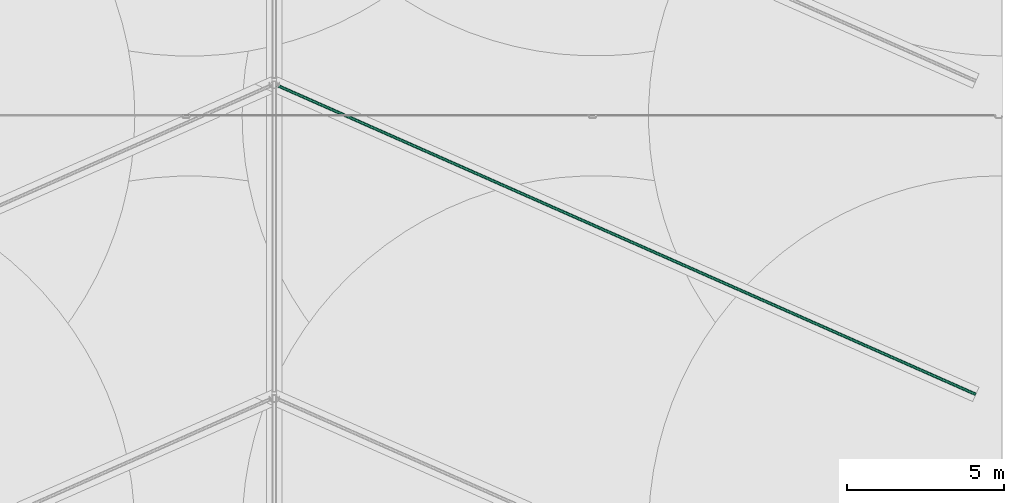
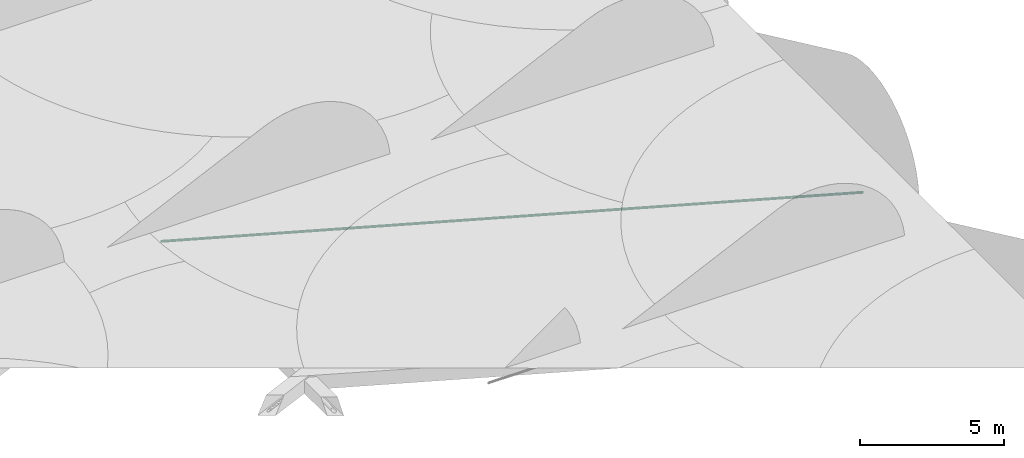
# One storey, part 40 of 166: 1 flow segment.
"""IFC2X3 building model written with IfcOpenShell, lengths in metres."""

from ifc_helpers import new_model, entity, si_unit, converted_unit, direction, frame, origin, origin_2d_with_axis, place, context, subcontext, project, spatial, circle, extrude, type_object, element, save


model = new_model("IFC2X3")

# Units and contexts
model_context = context("Model", 3, precision=1e-05, world=origin(), true_north=direction((6.123233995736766e-17, 1.0)))
body_context = subcontext(model_context, "Body", "Model", "MODEL_VIEW")
ifc_project = project(units=[si_unit("LENGTHUNIT", "METRE"), converted_unit("PLANEANGLEUNIT", "DEGREE", entity("IfcPlaneAngleMeasure", 0.017453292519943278), si_unit("PLANEANGLEUNIT", "RADIAN"), dimensions=[0, 0, 0, 0, 0, 0, 0]), si_unit("AREAUNIT", "SQUARE_METRE")], contexts=[model_context])

# Site, building, storey
site_placement = place(None, origin())
site = spatial("IfcSite", under=ifc_project, at=site_placement, Name="Default", CompositionType="ELEMENT")
building_placement = place(site_placement, origin())
building = spatial("IfcBuilding", under=site, at=building_placement, Name="CASA DE ACOLHIDA PARA IDOSOS", CompositionType="ELEMENT")
storey_placement = place(building_placement, frame((0.0, 0.0, -1.7499999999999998)))
storey = spatial("IfcBuildingStorey", under=building, at=storey_placement, Name="IMPLANTAÇÃO DRENAGEM", CompositionType="ELEMENT", Elevation=-1.7499999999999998)

# Flow segment
pipe_segment_type = type_object("IfcPipeSegmentType", Name="Tipos de tubos:PLUV_Tubo PEAD Corrugado", PredefinedType="NOTDEFINED")
flow_segment_placement = place(storey_placement, origin())
element("IfcFlowSegment", 1, at=flow_segment_placement, inside=storey, type_object=pipe_segment_type, Name="Tipos de tubos:PLUV_Tubo PEAD Corrugado", ObjectType="Tipos de tubos:PLUV_Tubo PEAD Corrugado", context=body_context, shape_type="SweptSolid", body=[
    extrude(circle(Radius=0.05, at=origin_2d_with_axis()), frame((45.355557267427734, 13.953057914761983, -0.8500099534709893), z_axis=(-0.9144899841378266, 0.4044849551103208, -0.009999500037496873), x_axis=(0.4045051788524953, 0.914535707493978, 0.0)), (0.0, 0.0, 1.0), 24.480228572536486),
])

save(model, "model.ifc")
